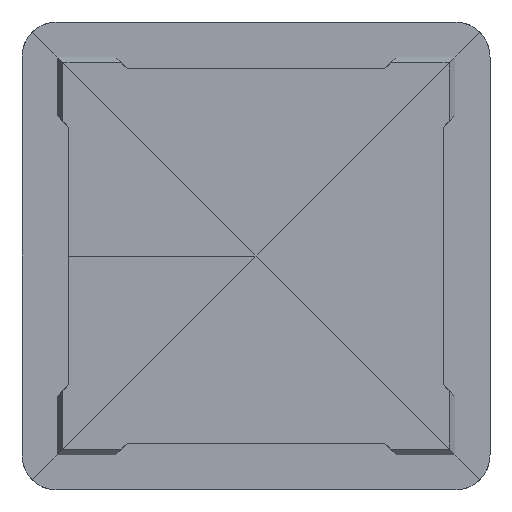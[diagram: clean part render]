
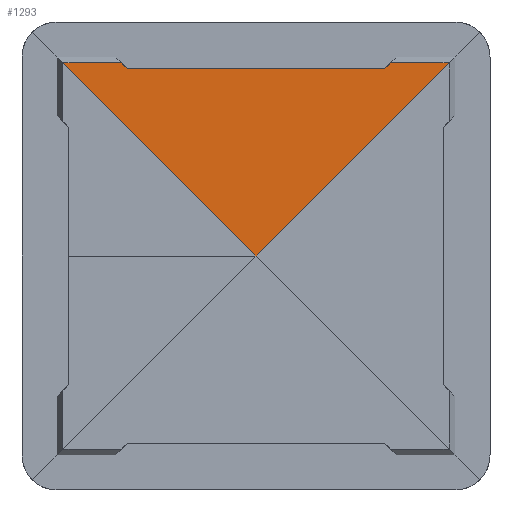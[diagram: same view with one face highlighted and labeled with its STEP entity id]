
A CAD part, front view. The second image highlights one B-rep face of the part: STEP entity #1293.
In plain terms, the highlighted planar face has unit normal (0, -1, 0).
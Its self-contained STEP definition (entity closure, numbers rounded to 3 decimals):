
#80 = ORIENTED_EDGE ( 'NONE', *, *, #2531, .F. ) ;
#134 = CARTESIAN_POINT ( 'NONE',  ( -15., 0., 20. ) ) ;
#162 = PLANE ( 'NONE',  #2791 ) ;
#171 = VECTOR ( 'NONE', #229, 1000. ) ;
#229 = DIRECTION ( 'NONE',  ( -0.707, 0., 0.707 ) ) ;
#247 = FACE_OUTER_BOUND ( 'NONE', #3888, .T. ) ;
#424 = CARTESIAN_POINT ( 'NONE',  ( -11.5, 0., 16.5 ) ) ;
#460 = CARTESIAN_POINT ( 'NONE',  ( 0., 0., 0. ) ) ;
#529 = EDGE_CURVE ( 'NONE', #2782, #2423, #1465, .T. ) ;
#654 = DIRECTION ( 'NONE',  ( 0.707, 0., 0.707 ) ) ;
#689 = VECTOR ( 'NONE', #1682, 1000. ) ;
#702 = EDGE_CURVE ( 'NONE', #3120, #2423, #2579, .T. ) ;
#779 = CARTESIAN_POINT ( 'NONE',  ( -16.5, 0., 16.5 ) ) ;
#817 = CARTESIAN_POINT ( 'NONE',  ( 20.35, 0., 0. ) ) ;
#834 = EDGE_CURVE ( 'NONE', #3782, #3763, #2926, .T. ) ;
#1069 = VECTOR ( 'NONE', #2627, 1000. ) ;
#1119 = CARTESIAN_POINT ( 'NONE',  ( -10.175, 0., 10.175 ) ) ;
#1166 = ORIENTED_EDGE ( 'NONE', *, *, #702, .T. ) ;
#1293 = ADVANCED_FACE ( 'NONE', ( #247 ), #162, .F. ) ;
#1325 = DIRECTION ( 'NONE',  ( 1., 0., 0. ) ) ;
#1432 = DIRECTION ( 'NONE',  ( 0., 1., 0. ) ) ;
#1465 = LINE ( 'NONE', #2932, #3226 ) ;
#1489 = ORIENTED_EDGE ( 'NONE', *, *, #2588, .F. ) ;
#1524 = VECTOR ( 'NONE', #3668, 1000. ) ;
#1682 = DIRECTION ( 'NONE',  ( -1., 0., 0. ) ) ;
#1684 = LINE ( 'NONE', #2902, #3375 ) ;
#1744 = CARTESIAN_POINT ( 'NONE',  ( 11.5, 0., 16.5 ) ) ;
#1829 = EDGE_CURVE ( 'NONE', #3782, #3120, #3445, .T. ) ;
#1841 = VECTOR ( 'NONE', #654, 1000. ) ;
#2090 = CARTESIAN_POINT ( 'NONE',  ( -11., 0., 16. ) ) ;
#2123 = LINE ( 'NONE', #2398, #1524 ) ;
#2175 = CARTESIAN_POINT ( 'NONE',  ( -10.175, 0., -10.175 ) ) ;
#2255 = ORIENTED_EDGE ( 'NONE', *, *, #1829, .T. ) ;
#2398 = CARTESIAN_POINT ( 'NONE',  ( 20.35, 0., 16.5 ) ) ;
#2423 = VERTEX_POINT ( 'NONE', #1744 ) ;
#2482 = CARTESIAN_POINT ( 'NONE',  ( 11., 0., 16. ) ) ;
#2531 = EDGE_CURVE ( 'NONE', #2597, #3177, #3754, .T. ) ;
#2579 = LINE ( 'NONE', #3475, #689 ) ;
#2588 = EDGE_CURVE ( 'NONE', #3177, #2782, #1684, .T. ) ;
#2597 = VERTEX_POINT ( 'NONE', #424 ) ;
#2627 = DIRECTION ( 'NONE',  ( 0.707, 0., -0.707 ) ) ;
#2670 = ORIENTED_EDGE ( 'NONE', *, *, #834, .F. ) ;
#2688 = DIRECTION ( 'NONE',  ( 0.707, 0., 0.707 ) ) ;
#2738 = CARTESIAN_POINT ( 'NONE',  ( 16.5, 0., 16.5 ) ) ;
#2782 = VERTEX_POINT ( 'NONE', #2482 ) ;
#2791 = AXIS2_PLACEMENT_3D ( 'NONE', #817, #1432, #2917 ) ;
#2902 = CARTESIAN_POINT ( 'NONE',  ( -11., 0., 16. ) ) ;
#2917 = DIRECTION ( 'NONE',  ( 0., 0., 1. ) ) ;
#2926 = LINE ( 'NONE', #1119, #171 ) ;
#2932 = CARTESIAN_POINT ( 'NONE',  ( 11., 0., 16. ) ) ;
#2958 = ORIENTED_EDGE ( 'NONE', *, *, #529, .F. ) ;
#3072 = EDGE_CURVE ( 'NONE', #2597, #3763, #2123, .T. ) ;
#3120 = VERTEX_POINT ( 'NONE', #2738 ) ;
#3177 = VERTEX_POINT ( 'NONE', #2090 ) ;
#3186 = ORIENTED_EDGE ( 'NONE', *, *, #3072, .T. ) ;
#3226 = VECTOR ( 'NONE', #2688, 1000. ) ;
#3375 = VECTOR ( 'NONE', #1325, 1000. ) ;
#3445 = LINE ( 'NONE', #2175, #1841 ) ;
#3475 = CARTESIAN_POINT ( 'NONE',  ( 20.35, 0., 16.5 ) ) ;
#3668 = DIRECTION ( 'NONE',  ( -1., 0., 0. ) ) ;
#3754 = LINE ( 'NONE', #134, #1069 ) ;
#3763 = VERTEX_POINT ( 'NONE', #779 ) ;
#3782 = VERTEX_POINT ( 'NONE', #460 ) ;
#3888 = EDGE_LOOP ( 'NONE', ( #80, #3186, #2670, #2255, #1166, #2958, #1489 ) ) ;
